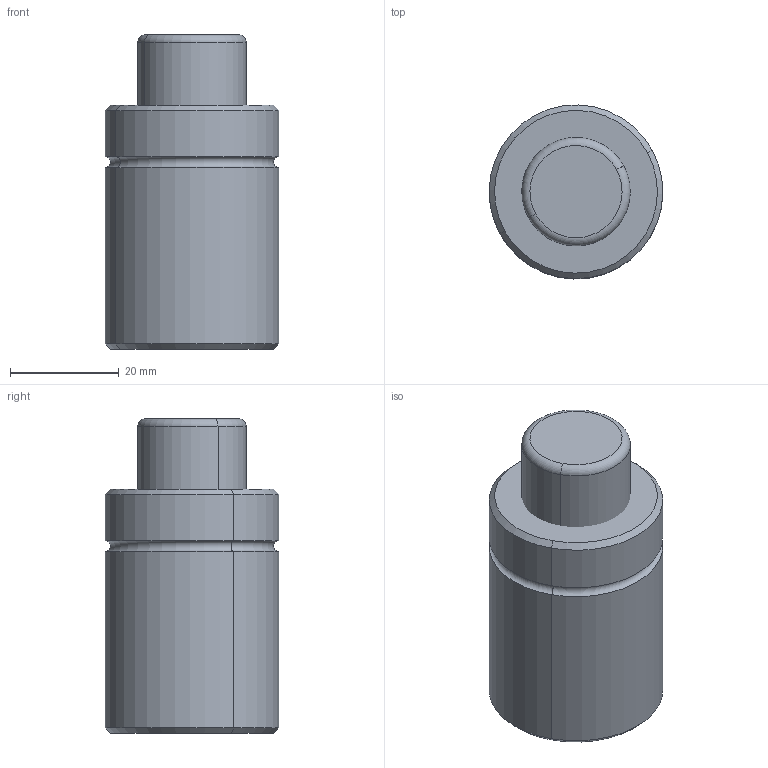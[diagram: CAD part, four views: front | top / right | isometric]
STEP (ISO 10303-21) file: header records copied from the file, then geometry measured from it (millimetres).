
FILE_DESCRIPTION(('CATIA V5 STEP Exchange'),'2;1');
FILE_NAME('W:\CATALOGO GENERAL 2018\FICHEROS CAD\003-TPH\TPH 470\TPH 470x13.stp','2017-11-30T15:41:38+00:00',('none'),('none'),'CATIA Version 5 Release 17 (IN-10)','CATIA V5 STEP AP203','none');
FILE_SCHEMA(('CONFIG_CONTROL_DESIGN'));
Length unit declared in the file: millimetre
Products named in the file (1): TPH 470x13
Bounding box: 31.99 x 31.99 x 58 mm (x, y, z)
Volume: 53188.4 mm3; surface area: 10156.8 mm2
Topology: 2 solids, 2 shells, 18 faces, 32 edges, 18 vertices
Faces by surface type: cylinder 6, cone 4, torus 4, plane 4
Entity records: 416 total; most frequent: ORIENTED_EDGE 64, CARTESIAN_POINT 61, DIRECTION 52, AXIS2_PLACEMENT_3D 33, EDGE_CURVE 32, CIRCLE 22, ADVANCED_FACE 18, EDGE_LOOP 18
